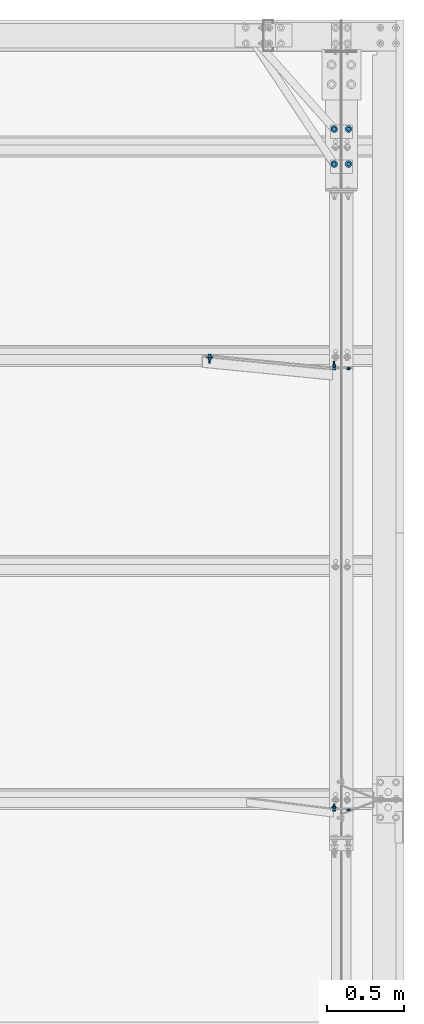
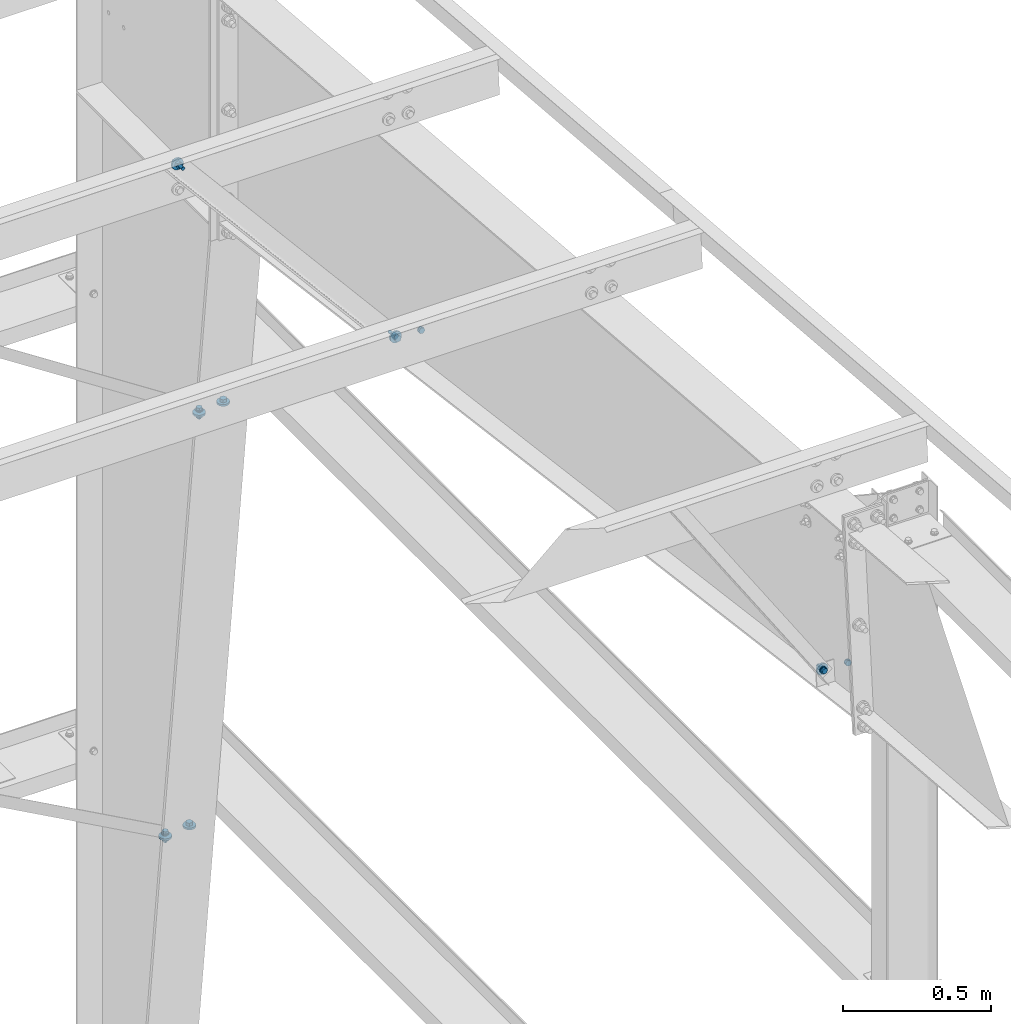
# One storey, part 180 of 185: 11 mechanical fasteners, 4 elements without a shape of their own.
"""IFC2X3 building model written with IfcOpenShell, lengths in millimetres."""

import ifcopenshell
import ifcopenshell.guid

model = None  # the IFC model being written
_history = None  # IfcOwnerHistory: only IFC2X3 demands one
_inside = {}  # id of a spatial element -> (the spatial element, [elements in it])
_under = {}  # id of a project, library or spatial element -> (it, [spatial elements below it])
_declared = {}  # id of a project -> (the project, [libraries it declares])
_typed = {}  # id of a type object -> (the type object, [elements of that type])
_made_of = {}  # id of a material, layer set ... -> (it, [elements and type objects made of it])


def new_model(schema):
    """Start an empty IFC model of exactly this schema.

    Asked for "IFC4X3", IfcOpenShell would pick the latest addendum, in which some entities
    have other attributes; the version numbers below select the first issue.
    IFC2X3 requires an IfcOwnerHistory on every rooted entity: one is made here for all.
    """
    global model, _history
    if schema == "IFC4X3":
        model = ifcopenshell.file(schema_version=(4, 3, 0, 0))
    else:
        model = ifcopenshell.file(schema=schema)
    _inside.clear()
    _under.clear()
    _declared.clear()
    _typed.clear()
    _made_of.clear()
    _history = None
    if model.schema == "IFC2X3":
        org = make("IfcOrganization", Name="unknown")
        user = make(
            "IfcPersonAndOrganization",
            ThePerson=make("IfcPerson", FamilyName="unknown"),
            TheOrganization=org,
        )
        app = make(
            "IfcApplication",
            ApplicationDeveloper=org,
            Version="unknown",
            ApplicationFullName="unknown",
            ApplicationIdentifier="unknown",
        )
        _history = make(
            "IfcOwnerHistory",
            OwningUser=user,
            OwningApplication=app,
            ChangeAction="ADDED",
            CreationDate=0,
        )
    return model


def make(cls, **values):
    """One entity of the class cls with the attributes given. An attribute that is None is left unset."""
    return model.create_entity(
        cls, **{name: value for name, value in values.items() if value is not None}
    )


def rooted(cls, **values):
    """An entity with a GlobalId (a new one), such as an element, a storey or a relation."""
    return make(cls, GlobalId=ifcopenshell.guid.new(), OwnerHistory=_history, **values)


def si_unit(unit_type, name, prefix=None):
    """IfcSIUnit, for example si_unit("LENGTHUNIT", "METRE", prefix="MILLI")."""
    return make("IfcSIUnit", UnitType=unit_type, Prefix=prefix, Name=name)


def assignment(units):
    """IfcUnitAssignment: the units of a project."""
    return None if units is None else make("IfcUnitAssignment", Units=units)


def point(xyz):
    """IfcCartesianPoint."""
    return None if xyz is None else make("IfcCartesianPoint", Coordinates=xyz)


def direction(xyz):
    """IfcDirection."""
    return None if xyz is None else make("IfcDirection", DirectionRatios=xyz)


def frame(location, z_axis=None, x_axis=None):
    """IfcAxis2Placement3D, a coordinate frame: its origin and axes. An axis left out is left unset."""
    return make(
        "IfcAxis2Placement3D",
        Location=point(location),
        Axis=direction(z_axis),
        RefDirection=direction(x_axis),
    )


def frame_2d(location, x_axis=None):
    """IfcAxis2Placement2D, a coordinate frame in the plane: its origin and x axis."""
    return make(
        "IfcAxis2Placement2D", Location=point(location), RefDirection=direction(x_axis)
    )


def origin_with_axes():
    """The frame at (0, 0, 0) with the z axis (0, 0, 1) and the x axis (1, 0, 0) written out."""
    return frame((0.0, 0.0, 0.0), z_axis=(0.0, 0.0, 1.0), x_axis=(1.0, 0.0, 0.0))


def origin_2d_with_axis():
    """The frame at (0, 0) in the plane with the x axis (1, 0) written out."""
    return frame_2d((0.0, 0.0), x_axis=(1.0, 0.0))


def place(relative_to, where):
    """IfcLocalPlacement: puts the frame where relative to a parent placement (None: the world)."""
    return make(
        "IfcLocalPlacement", PlacementRelTo=relative_to, RelativePlacement=where
    )


def context(
    kind, dimensions, precision=None, world=None, true_north=None, identifier=None
):
    """IfcGeometricRepresentationContext, for example the 3D "Model" context."""
    return make(
        "IfcGeometricRepresentationContext",
        ContextIdentifier=identifier,
        ContextType=kind,
        CoordinateSpaceDimension=dimensions,
        Precision=precision,
        WorldCoordinateSystem=world,
        TrueNorth=true_north,
    )


def subcontext(parent, identifier, kind, view, scale=None):
    """IfcGeometricRepresentationSubContext, for example "Body" below "Model"."""
    return make(
        "IfcGeometricRepresentationSubContext",
        ContextIdentifier=identifier,
        ContextType=kind,
        ParentContext=parent,
        TargetScale=scale,
        TargetView=view,
    )


def project(units=None, contexts=None):
    """IfcProject with its units and contexts."""
    return rooted(
        "IfcProject",
        Name="project",
        RepresentationContexts=contexts,
        UnitsInContext=assignment(units),
    )


def spatial(cls, under=None, at=None, **own):
    """A site, building, storey or space (cls), placed at a placement, below another one or the project."""
    s = rooted(cls, ObjectPlacement=at, **own)
    if under is not None:
        _under.setdefault(under.id(), (under, []))[1].append(s)
    return s


def polyline(points):
    """IfcPolyline through the points."""
    return make("IfcPolyline", Points=[point(p) for p in points])


def profile(cls, at=None, kind="AREA", **sizes):
    """A parametric profile (cls). Its sizes go by their IFC names, for example OverallWidth=200.0."""
    return make(cls, ProfileType=kind, Position=at, **sizes)


def circle(**sizes):
    """IfcCircleProfileDef."""
    return profile("IfcCircleProfileDef", **sizes)


def outline(outer, holes=None, kind="AREA"):
    """IfcArbitraryClosedProfileDef: a profile drawn as a closed curve; with holes, ...WithVoids."""
    if holes is None:
        return make("IfcArbitraryClosedProfileDef", ProfileType=kind, OuterCurve=outer)
    return make(
        "IfcArbitraryProfileDefWithVoids",
        ProfileType=kind,
        OuterCurve=outer,
        InnerCurves=holes,
    )


def extrude(swept, where, along, depth):
    """IfcExtrudedAreaSolid: the profile swept, set in the frame where, extruded along a direction by depth."""
    return make(
        "IfcExtrudedAreaSolid",
        SweptArea=swept,
        Position=where,
        ExtrudedDirection=direction(along),
        Depth=depth,
    )


def shape(context_of_items, identifier, shape_type, items):
    """IfcShapeRepresentation: the items that make up one representation, for example the "Body"."""
    return make(
        "IfcShapeRepresentation",
        ContextOfItems=context_of_items,
        RepresentationIdentifier=identifier,
        RepresentationType=shape_type,
        Items=items,
    )


def source(mapping_origin, context_of_items, identifier, shape_type, items):
    """IfcRepresentationMap: a shape defined once, which mapped items show again and again."""
    return make(
        "IfcRepresentationMap",
        MappingOrigin=mapping_origin,
        MappedRepresentation=shape(context_of_items, identifier, shape_type, items),
    )


def transform(
    local_origin,
    x_axis=None,
    y_axis=None,
    z_axis=None,
    scale=None,
    scale2=None,
    scale3=None,
    uniform=True,
):
    """IfcCartesianTransformationOperator3D, or its non-uniform kind. x_axis, y_axis, z_axis: its Axis1, 2, 3."""
    if uniform:
        return make(
            "IfcCartesianTransformationOperator3D",
            Axis1=direction(x_axis),
            Axis2=direction(y_axis),
            LocalOrigin=point(local_origin),
            Scale=scale,
            Axis3=direction(z_axis),
        )
    return make(
        "IfcCartesianTransformationOperator3DnonUniform",
        Axis1=direction(x_axis),
        Axis2=direction(y_axis),
        LocalOrigin=point(local_origin),
        Scale=scale,
        Axis3=direction(z_axis),
        Scale2=scale2,
        Scale3=scale3,
    )


def mapped(mapping_source, mapping_target):
    """IfcMappedItem: shows the shape of a source again, moved by a transform."""
    return make(
        "IfcMappedItem", MappingSource=mapping_source, MappingTarget=mapping_target
    )


def material(Name=None, Category=None):
    """IfcMaterial."""
    return make("IfcMaterial", Name=Name, Category=Category)


def made_of(thing, what):
    """Note that an element or type object is made of a material, layer set ...; save() writes the relation."""
    if what is not None:
        _made_of.setdefault(what.id(), (what, []))[1].append(thing)
    return thing


def type_object(cls, material=None, **own):
    """A type object (cls), such as IfcWallType, which elements share."""
    return made_of(rooted(cls, **own), material)


def element(
    cls,
    number,
    at=None,
    inside=None,
    cuts=None,
    type_object=None,
    material=None,
    context=None,
    identifier="Body",
    shape_type=None,
    held_by="IfcProductDefinitionShape",
    body=None,
    shapes=None,
    **own,
):
    """One element of the class cls, such as IfcWall. Its Tag is "e" and its number.

    at: its placement. inside: the storey or other place that contains it. cuts: it is an
    opening in that element (IfcRelVoidsElement). A single representation is given by context,
    identifier, shape_type and body (its items); several are given by shapes. held_by: the class
    of the entity that holds the representations. save() writes the other relations.
    """
    e = rooted(cls, Tag="e%d" % number, ObjectPlacement=at, **own)
    if body is not None:
        shapes = [shape(context, identifier, shape_type, body)]
    if shapes is not None:
        e.Representation = make(held_by, Representations=shapes)
    if inside is not None:
        _inside.setdefault(inside.id(), (inside, []))[1].append(e)
    if cuts is not None:
        rooted(
            "IfcRelVoidsElement", RelatingBuildingElement=cuts, RelatedOpeningElement=e
        )
    if type_object is not None:
        _typed.setdefault(type_object.id(), (type_object, []))[1].append(e)
    return made_of(e, material)


def aggregate(whole, parts):
    """IfcRelAggregates: a whole, such as a stair, and the parts it consists of."""
    return rooted("IfcRelAggregates", RelatingObject=whole, RelatedObjects=parts)


def save(model, path):
    """Write the relations noted so far, then the file.

    IfcRelAggregates (storeys below a building ...), IfcRelContainedInSpatialStructure (elements
    in a storey), IfcRelDefinesByType, IfcRelAssociatesMaterial and IfcRelDeclares: one each for
    every whole, place, type object, material and project.
    """
    for whole, parts in _under.values():
        aggregate(whole, parts)
    for where, things in _inside.values():
        rooted(
            "IfcRelContainedInSpatialStructure",
            RelatedElements=things,
            RelatingStructure=where,
        )
    for kind, things in _typed.values():
        rooted("IfcRelDefinesByType", RelatedObjects=things, RelatingType=kind)
    for what, things in _made_of.values():
        rooted("IfcRelAssociatesMaterial", RelatedObjects=things, RelatingMaterial=what)
    for by, libraries in _declared.values():
        rooted("IfcRelDeclares", RelatingContext=by, RelatedDefinitions=libraries)
    model.write(path)


model = new_model("IFC2X3")

# Units and contexts
model_context = context("Model", 3, precision=1e-05, world=origin_with_axes())
body_context = subcontext(model_context, "Body", "Model", "MODEL_VIEW")
ifc_project = project(units=[si_unit("LENGTHUNIT", "METRE", prefix="MILLI"), si_unit("AREAUNIT", "SQUARE_METRE"), si_unit("VOLUMEUNIT", "CUBIC_METRE"), si_unit("MASSUNIT", "GRAM", prefix="KILO"), si_unit("TIMEUNIT", "SECOND"), si_unit("PLANEANGLEUNIT", "RADIAN"), si_unit("SOLIDANGLEUNIT", "STERADIAN"), si_unit("THERMODYNAMICTEMPERATUREUNIT", "DEGREE_CELSIUS"), si_unit("LUMINOUSINTENSITYUNIT", "LUMEN")], contexts=[model_context])

# Site, building, storey
site_placement = place(None, origin_with_axes())
site = spatial("IfcSite", under=ifc_project, at=site_placement, Name="Undefined", CompositionType="ELEMENT")
building_placement = place(site_placement, origin_with_axes())
building = spatial("IfcBuilding", under=site, at=building_placement, Name="Undefined", CompositionType="ELEMENT")
storey_placement = place(building_placement, origin_with_axes())
storey = spatial("IfcBuildingStorey", under=building, at=storey_placement, Name="Undefined", CompositionType="ELEMENT", Elevation=0.0)

# Assembly, mechanical fastener
assembly_1_placement = place(storey_placement, origin_with_axes())
assembly_1 = element("IfcElementAssembly", 1, at=assembly_1_placement, inside=storey, Name="Steel Assembly", AssemblyPlace="NOTDEFINED", PredefinedType="RIGID_FRAME")
ifc_material_1 = material(Name="Undefined")
discrete_accessory_type = type_object("IfcDiscreteAccessoryType", Name="Bolt assembly")
shared_shape_1 = source(origin_with_axes(), body_context, "Body", "SweptSolid", [
    extrude(circle(Radius=7.14374971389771, at=origin_2d_with_axis()), frame((0.0, -1.59000001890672, 0.0), z_axis=(0.0, 1.0, 0.0), x_axis=(1.0, 0.0, 0.0)), (0.0, 0.0, 1.0), 1.7),
    extrude(outline(polyline([(10.9985221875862, 0.0), (5.4992610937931, 9.52499961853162), (-5.4992610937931, 9.52499961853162), (-10.9985221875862, 0.0), (-5.4992610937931, -9.52499961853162), (5.4992610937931, -9.52499961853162), (10.9985221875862, 0.0)])), frame((0.0, -15.0837496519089, 0.0), z_axis=(0.0, 1.0, 0.0), x_axis=(1.0, 0.0, 0.0)), (0.0, 0.0, 1.0), 9.5),
    extrude(circle(Radius=6.34999990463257, at=origin_2d_with_axis()), frame((0.0, -5.5587500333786, 0.0), z_axis=(0.0, 1.0, 0.0), x_axis=(1.0, 0.0, 0.0)), (0.0, 0.0, 1.0), 38.1),
    extrude(circle(Radius=13.4937496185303, at=origin_2d_with_axis()), frame((0.0, -5.5587500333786, 0.0), z_axis=(0.0, 1.0, 0.0), x_axis=(1.0, 0.0, 0.0)), (0.0, 0.0, 1.0), 4.0),
    extrude(circle(Radius=22.2250003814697, at=origin_2d_with_axis()), frame((0.0, 0.0, 0.0), z_axis=(0.0, 1.0, 0.0), x_axis=(1.0, 0.0, 0.0)), (0.0, 0.0, 1.0), 7.9),
    extrude(outline(polyline([(12.8316099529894, 0.0), (6.4158049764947, 11.1125001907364), (-6.4158049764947, 11.1125001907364), (-12.8316099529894, 0.0), (-6.4158049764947, -11.1125001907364), (6.4158049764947, -11.1125001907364), (12.8316099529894, 0.0)])), frame((0.0, 7.93750000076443, 0.0), z_axis=(0.0, 1.0, 0.0), x_axis=(1.0, 0.0, 0.0)), (0.0, 0.0, 1.0), 12.3),
])
mechanical_fastener_1_placement = place(assembly_1_placement, frame((44504.2212996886, 26864.5318232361, 5649.87801537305), z_axis=(-0.836838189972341, -0.0454632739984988, -0.545559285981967), x_axis=(-0.547450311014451, 0.0694956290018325, 0.833947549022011)))
mechanical_fastener_1 = element("IfcMechanicalFastener", 2, at=mechanical_fastener_1_placement, type_object=discrete_accessory_type, material=ifc_material_1, Name="Bolt assembly", NominalDiameter=12.6999998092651, NominalLength=38.0999984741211, context=body_context, shape_type="MappedRepresentation", body=[
    mapped(shared_shape_1, transform((0.0, 0.0, 0.0))),
])
aggregate(assembly_1, [mechanical_fastener_1])

# Assembly, mechanical fasteners
assembly_2_placement = place(storey_placement, origin_with_axes())
assembly_2 = element("IfcElementAssembly", 3, at=assembly_2_placement, inside=storey, Name="Steel Assembly", AssemblyPlace="NOTDEFINED", PredefinedType="RIGID_FRAME")
ifc_material_2 = material(Name="7990")
shared_shape_2 = source(origin_with_axes(), body_context, "Body", "SweptSolid", [
    extrude(circle(Radius=7.14374971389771, at=origin_2d_with_axis()), frame((0.0, -3.41600000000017, 0.0), z_axis=(0.0, 1.0, 0.0), x_axis=(1.0, 0.0, 0.0)), (0.0, 0.0, 1.0), 3.5),
    extrude(circle(Radius=11.4299998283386, at=origin_2d_with_axis()), frame((0.0, 0.0, 0.0), z_axis=(0.0, 1.0, 0.0), x_axis=(1.0, 0.0, 0.0)), (0.0, 0.0, 1.0), 4.2),
    extrude(outline(polyline([(12.171698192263, 0.0), (6.08584909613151, 10.5409998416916), (-6.08584909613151, 10.5409998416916), (-12.171698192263, 0.0), (-6.08584909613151, -10.5409998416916), (6.08584909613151, -10.5409998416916), (12.171698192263, 0.0)])), frame((0.0, 4.1909999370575, 0.0), z_axis=(0.0, 1.0, 0.0), x_axis=(1.0, 0.0, 0.0)), (0.0, 0.0, 1.0), 8.4),
])
mechanical_fastener_2_placement = place(assembly_2_placement, frame((44598.43125, 26864.4623276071, 5649.04406782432), z_axis=(-0.921635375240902, -0.0322263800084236, -0.386716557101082), x_axis=(0.388056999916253, -0.0765376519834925, -0.918451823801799)))
mechanical_fastener_2 = element("IfcMechanicalFastener", 4, at=mechanical_fastener_2_placement, type_object=discrete_accessory_type, material=ifc_material_2, Name="Bolt assembly", NominalDiameter=12.6999998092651, NominalLength=38.0999984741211, context=body_context, shape_type="MappedRepresentation", body=[
    mapped(shared_shape_2, transform((0.0, 0.0, 0.0))),
])
mechanical_fastener_3_placement = place(assembly_2_placement, frame((44598.43125, 29738.7325780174, 5272.64581043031), z_axis=(-0.921635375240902, -0.0322263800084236, -0.386716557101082), x_axis=(0.388056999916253, -0.0765376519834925, -0.918451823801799)))
mechanical_fastener_3 = element("IfcMechanicalFastener", 5, at=mechanical_fastener_3_placement, type_object=discrete_accessory_type, material=ifc_material_2, Name="Bolt assembly", NominalDiameter=12.6999998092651, NominalLength=38.0999984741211, context=body_context, shape_type="MappedRepresentation", body=[
    mapped(shared_shape_2, transform((0.0, 0.0, 0.0))),
])
shared_shape_3 = source(origin_with_axes(), body_context, "Body", "SweptSolid", [
    extrude(circle(Radius=7.14374971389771, at=origin_2d_with_axis()), frame((0.0, 0.0, 0.0), z_axis=(0.0, 1.0, 0.0), x_axis=(1.0, 0.0, 0.0)), (0.0, 0.0, 1.0), 3.5),
    extrude(circle(Radius=11.4299998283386, at=origin_2d_with_axis()), frame((0.0, 3.41600000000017, 0.0), z_axis=(0.0, 1.0, 0.0), x_axis=(1.0, 0.0, 0.0)), (0.0, 0.0, 1.0), 4.2),
    extrude(outline(polyline([(12.171698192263, 0.0), (6.08584909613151, 10.5409998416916), (-6.08584909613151, 10.5409998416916), (-12.171698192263, 0.0), (-6.08584909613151, -10.5409998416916), (6.08584909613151, -10.5409998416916), (12.171698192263, 0.0)])), frame((0.0, 7.60699993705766, 0.0), z_axis=(0.0, 1.0, 0.0), x_axis=(1.0, 0.0, 0.0)), (0.0, 0.0, 1.0), 8.4),
])
mechanical_fastener_4_placement = place(assembly_2_placement, frame((44504.76875, 26864.4623276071, 5649.04406782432), z_axis=(0.921635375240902, -0.0322263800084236, -0.386716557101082), x_axis=(-0.388056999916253, -0.0765376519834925, -0.918451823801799)))
mechanical_fastener_4 = element("IfcMechanicalFastener", 6, at=mechanical_fastener_4_placement, type_object=discrete_accessory_type, material=ifc_material_2, Name="Bolt assembly", NominalDiameter=12.6999998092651, NominalLength=38.0999984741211, context=body_context, shape_type="MappedRepresentation", body=[
    mapped(shared_shape_3, transform((0.0, 0.0, 0.0))),
])
mechanical_fastener_5_placement = place(assembly_2_placement, frame((44504.76875, 29738.732578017, 5272.64581043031), z_axis=(0.921635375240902, -0.0322263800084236, -0.386716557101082), x_axis=(-0.388056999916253, -0.0765376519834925, -0.918451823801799)))
mechanical_fastener_5 = element("IfcMechanicalFastener", 7, at=mechanical_fastener_5_placement, type_object=discrete_accessory_type, material=ifc_material_2, Name="Bolt assembly", NominalDiameter=12.6999998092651, NominalLength=38.0999984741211, context=body_context, shape_type="MappedRepresentation", body=[
    mapped(shared_shape_3, transform((0.0, 0.0, 0.0))),
])
aggregate(assembly_2, [mechanical_fastener_4, mechanical_fastener_2, mechanical_fastener_5, mechanical_fastener_3])

assembly_3_placement = place(storey_placement, origin_with_axes())
assembly_3 = element("IfcElementAssembly", 8, at=assembly_3_placement, inside=storey, Name="Steel Assembly", AssemblyPlace="NOTDEFINED", PredefinedType="RIGID_FRAME")
shared_shape_4 = source(origin_with_axes(), body_context, "Body", "SweptSolid", [
    extrude(circle(Radius=7.14374971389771, at=origin_2d_with_axis()), frame((0.0, -3.41629999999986, 0.0), z_axis=(0.0, 1.0, 0.0), x_axis=(1.0, 0.0, 0.0)), (0.0, 0.0, 1.0), 3.5),
    extrude(circle(Radius=22.2250003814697, at=origin_2d_with_axis()), frame((0.0, 0.0, 0.0), z_axis=(0.0, 1.0, 0.0), x_axis=(1.0, 0.0, 0.0)), (0.0, 0.0, 1.0), 7.9),
    extrude(outline(polyline([(12.8316099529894, 0.0), (6.4158049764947, 11.1125001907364), (-6.4158049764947, 11.1125001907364), (-12.8316099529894, 0.0), (-6.4158049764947, -11.1125001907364), (6.4158049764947, -11.1125001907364), (12.8316099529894, 0.0)])), frame((0.0, 7.93750000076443, 0.0), z_axis=(0.0, 1.0, 0.0), x_axis=(1.0, 0.0, 0.0)), (0.0, 0.0, 1.0), 12.3),
])
mechanical_fastener_6_placement = place(assembly_3_placement, frame((44598.43125, 31065.4481495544, 4165.6), z_axis=(0.0, -1.0, 0.0), x_axis=(1.0, 0.0, 0.0)))
mechanical_fastener_6 = element("IfcMechanicalFastener", 9, at=mechanical_fastener_6_placement, type_object=discrete_accessory_type, material=ifc_material_1, Name="Bolt assembly", NominalDiameter=12.6999998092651, NominalLength=50.7999992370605, context=body_context, shape_type="MappedRepresentation", body=[
    mapped(shared_shape_4, transform((0.0, 0.0, 0.0))),
])
mechanical_fastener_7_placement = place(assembly_3_placement, frame((44598.43125, 31293.5575559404, 2286.0), z_axis=(0.0, -1.0, 0.0), x_axis=(1.0, 0.0, 0.0)))
mechanical_fastener_7 = element("IfcMechanicalFastener", 10, at=mechanical_fastener_7_placement, type_object=discrete_accessory_type, material=ifc_material_1, Name="Bolt assembly", NominalDiameter=12.6999998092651, NominalLength=50.7999992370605, context=body_context, shape_type="MappedRepresentation", body=[
    mapped(shared_shape_4, transform((0.0, 0.0, 0.0))),
])

# Assembly, mechanical fastener
assembly_4_placement = place(storey_placement, origin_with_axes())
assembly_4 = element("IfcElementAssembly", 11, at=assembly_4_placement, inside=storey, Name="Steel Assembly", AssemblyPlace="NOTDEFINED", PredefinedType="RIGID_FRAME")
shared_shape_5 = source(origin_with_axes(), body_context, "Body", "SweptSolid", [
    extrude(circle(Radius=7.14374971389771, at=origin_2d_with_axis()), frame((0.0, 0.0, 0.0), z_axis=(0.0, 1.0, 0.0), x_axis=(1.0, 0.0, 0.0)), (0.0, 0.0, 1.0), 6.5),
    extrude(outline(polyline([(12.8316099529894, 0.0), (6.4158049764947, 11.1125001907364), (-6.4158049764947, 11.1125001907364), (-12.8316099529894, 0.0), (-6.4158049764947, -11.1125001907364), (6.4158049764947, -11.1125001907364), (12.8316099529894, 0.0)])), frame((0.0, -7.93749389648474, 0.0), z_axis=(0.0, 1.0, 0.0), x_axis=(1.0, 0.0, 0.0)), (0.0, 0.0, 1.0), 7.9),
    extrude(circle(Radius=6.34999990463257, at=origin_2d_with_axis()), frame((0.0, 0.0, 0.0), z_axis=(0.0, 1.0, 0.0), x_axis=(1.0, 0.0, 0.0)), (0.0, 0.0, 1.0), 50.8),
    extrude(circle(Radius=22.2250003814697, at=origin_2d_with_axis()), frame((0.0, 6.35000000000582, 0.0), z_axis=(0.0, 1.0, 0.0), x_axis=(1.0, 0.0, 0.0)), (0.0, 0.0, 1.0), 7.9),
    extrude(outline(polyline([(12.8316099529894, 0.0), (6.4158049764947, 11.1125001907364), (-6.4158049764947, 11.1125001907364), (-12.8316099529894, 0.0), (-6.4158049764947, -11.1125001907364), (6.4158049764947, -11.1125001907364), (12.8316099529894, 0.0)])), frame((0.0, 14.2875000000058, 0.0), z_axis=(0.0, 1.0, 0.0), x_axis=(1.0, 0.0, 0.0)), (0.0, 0.0, 1.0), 12.3),
])
mechanical_fastener_8_placement = place(assembly_4_placement, frame((43693.845, 29818.2760586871, 6227.16757841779), z_axis=(-0.766956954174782, -0.0532901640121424, -0.63948196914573), x_axis=(0.641698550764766, -0.0636923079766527, -0.764307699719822)))
mechanical_fastener_8 = element("IfcMechanicalFastener", 12, at=mechanical_fastener_8_placement, type_object=discrete_accessory_type, material=ifc_material_1, Name="Bolt assembly", NominalDiameter=12.6999998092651, NominalLength=50.7999992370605, context=body_context, shape_type="MappedRepresentation", body=[
    mapped(shared_shape_5, transform((0.0, 0.0, 0.0))),
])

# Mechanical fastener
shared_shape_6 = source(origin_with_axes(), body_context, "Body", "SweptSolid", [
    extrude(circle(Radius=7.14374971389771, at=origin_2d_with_axis()), frame((0.0, -1.4900000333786, 0.0), z_axis=(0.0, 1.0, 0.0), x_axis=(1.0, 0.0, 0.0)), (0.0, 0.0, 1.0), 1.6),
    extrude(circle(Radius=7.14374971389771, at=origin_2d_with_axis()), frame((0.0, 1.48749999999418, 0.0), z_axis=(0.0, 1.0, 0.0), x_axis=(1.0, 0.0, 0.0)), (0.0, 0.0, 1.0), 3.5),
    extrude(outline(polyline([(10.9985221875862, 0.0), (5.4992610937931, 9.52499961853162), (-5.4992610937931, 9.52499961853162), (-10.9985221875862, 0.0), (-5.4992610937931, -9.52499961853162), (5.4992610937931, -9.52499961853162), (10.9985221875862, 0.0)])), frame((0.0, -15.0837496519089, 0.0), z_axis=(0.0, 1.0, 0.0), x_axis=(1.0, 0.0, 0.0)), (0.0, 0.0, 1.0), 9.5),
    extrude(circle(Radius=6.34999990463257, at=origin_2d_with_axis()), frame((0.0, -5.5587500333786, 0.0), z_axis=(0.0, 1.0, 0.0), x_axis=(1.0, 0.0, 0.0)), (0.0, 0.0, 1.0), 38.1),
    extrude(circle(Radius=13.4937496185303, at=origin_2d_with_axis()), frame((0.0, -5.5587500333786, 0.0), z_axis=(0.0, 1.0, 0.0), x_axis=(1.0, 0.0, 0.0)), (0.0, 0.0, 1.0), 4.0),
    extrude(circle(Radius=22.2250003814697, at=origin_2d_with_axis()), frame((0.0, 5.00379999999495, 0.0), z_axis=(0.0, 1.0, 0.0), x_axis=(1.0, 0.0, 0.0)), (0.0, 0.0, 1.0), 7.9),
    extrude(outline(polyline([(12.8316099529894, 0.0), (6.4158049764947, 11.1125001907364), (-6.4158049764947, 11.1125001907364), (-12.8316099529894, 0.0), (-6.4158049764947, -11.1125001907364), (6.4158049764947, -11.1125001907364), (12.8316099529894, 0.0)])), frame((0.0, 12.941299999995, 0.0), z_axis=(0.0, 1.0, 0.0), x_axis=(1.0, 0.0, 0.0)), (0.0, 0.0, 1.0), 12.3),
])
mechanical_fastener_9_placement = place(assembly_3_placement, frame((44504.76875, 31065.4481495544, 4167.1875), z_axis=(-0.83363565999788, -0.552314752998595, 0.0), x_axis=(-0.552314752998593, 0.833635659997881, 0.0)))
mechanical_fastener_9 = element("IfcMechanicalFastener", 13, at=mechanical_fastener_9_placement, type_object=discrete_accessory_type, material=ifc_material_1, Name="Bolt assembly", NominalDiameter=12.6999998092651, NominalLength=38.0999984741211, context=body_context, shape_type="MappedRepresentation", body=[
    mapped(shared_shape_6, transform((0.0, 0.0, 0.0))),
])

mechanical_fastener_10_placement = place(assembly_3_placement, frame((44504.76875, 31293.5575559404, 2287.5875), z_axis=(-0.746385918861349, -0.665513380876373, 0.0), x_axis=(-0.665513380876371, 0.74638591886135, 0.0)))
mechanical_fastener_10 = element("IfcMechanicalFastener", 14, at=mechanical_fastener_10_placement, type_object=discrete_accessory_type, material=ifc_material_1, Name="Bolt assembly", NominalDiameter=12.6999998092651, NominalLength=38.0999984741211, context=body_context, shape_type="MappedRepresentation", body=[
    mapped(shared_shape_6, transform((0.0, 0.0, 0.0))),
])

aggregate(assembly_3, [mechanical_fastener_9, mechanical_fastener_6, mechanical_fastener_10, mechanical_fastener_7])

shared_shape_7 = source(origin_with_axes(), body_context, "Body", "SweptSolid", [
    extrude(circle(Radius=7.14374971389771, at=origin_2d_with_axis()), frame((0.0, -6.34999953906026, 0.0), z_axis=(0.0, 1.0, 0.0), x_axis=(1.0, 0.0, 0.0)), (0.0, 0.0, 1.0), 6.5),
    extrude(outline(polyline([(12.8316099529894, 0.0), (6.4158049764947, 11.1125001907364), (-6.4158049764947, 11.1125001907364), (-12.8316099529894, 0.0), (-6.4158049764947, -11.1125001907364), (6.4158049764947, -11.1125001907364), (12.8316099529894, 0.0)])), frame((0.0, -14.2874996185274, 0.0), z_axis=(0.0, 1.0, 0.0), x_axis=(1.0, 0.0, 0.0)), (0.0, 0.0, 1.0), 7.9),
    extrude(circle(Radius=6.34999990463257, at=origin_2d_with_axis()), frame((0.0, -6.34999953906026, 0.0), z_axis=(0.0, 1.0, 0.0), x_axis=(1.0, 0.0, 0.0)), (0.0, 0.0, 1.0), 50.8),
    extrude(circle(Radius=22.2250003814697, at=origin_2d_with_axis()), frame((0.0, 0.0, 0.0), z_axis=(0.0, 1.0, 0.0), x_axis=(1.0, 0.0, 0.0)), (0.0, 0.0, 1.0), 7.9),
    extrude(outline(polyline([(12.8316099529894, 0.0), (6.4158049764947, 11.1125001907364), (-6.4158049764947, 11.1125001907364), (-12.8316099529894, 0.0), (-6.4158049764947, -11.1125001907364), (6.4158049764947, -11.1125001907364), (12.8316099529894, 0.0)])), frame((0.0, 7.93750000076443, 0.0), z_axis=(0.0, 1.0, 0.0), x_axis=(1.0, 0.0, 0.0)), (0.0, 0.0, 1.0), 12.3),
])
mechanical_fastener_11_placement = place(assembly_4_placement, frame((44504.76875, 29738.732578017, 5272.64581043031), z_axis=(-0.766956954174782, -0.0532901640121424, -0.63948196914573), x_axis=(-0.641698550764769, 0.0636923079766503, 0.76430769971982)))
mechanical_fastener_11 = element("IfcMechanicalFastener", 15, at=mechanical_fastener_11_placement, type_object=discrete_accessory_type, material=ifc_material_1, Name="Bolt assembly", NominalDiameter=12.6999998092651, NominalLength=50.7999992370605, context=body_context, shape_type="MappedRepresentation", body=[
    mapped(shared_shape_7, transform((0.0, 0.0, 0.0))),
])

aggregate(assembly_4, [mechanical_fastener_8, mechanical_fastener_11])

save(model, "model.ifc")
